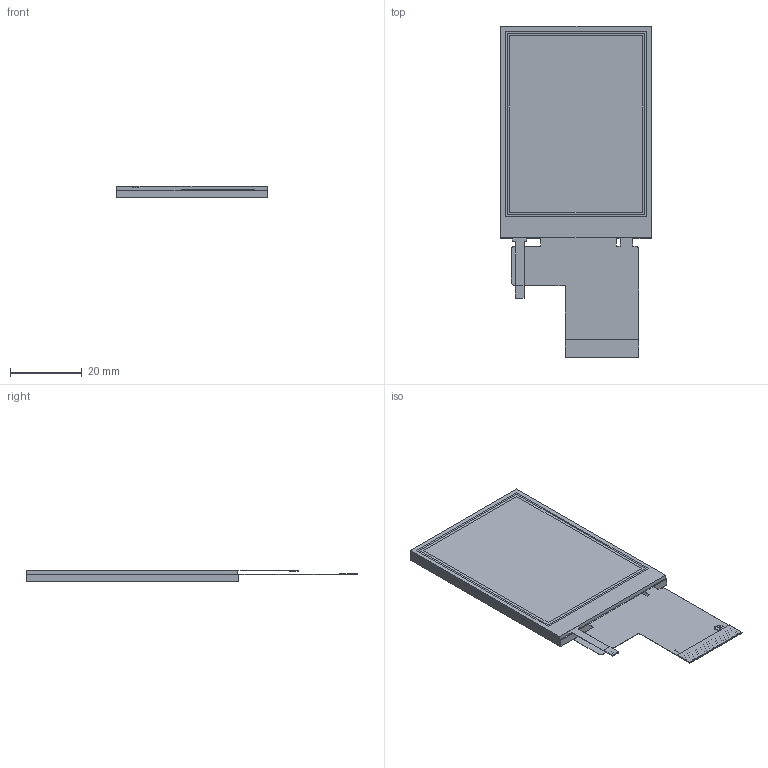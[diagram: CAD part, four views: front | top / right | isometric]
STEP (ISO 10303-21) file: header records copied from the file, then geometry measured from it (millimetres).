
FILE_DESCRIPTION (( 'STEP AP214' ), '1' );
FILE_NAME ('CFAF240320A0-024SR.STEP', '2023-06-06T21:04:22', ( '' ), ( '' ), 'SwSTEP 2.0', 'SolidWorks 2021', '' );
FILE_SCHEMA (( 'AUTOMOTIVE_DESIGN' ));
Length unit declared in the file: millimetre
Products named in the file (1): CFAF240320A0-024SR
Bounding box: 42 x 92.05 x 3.3 mm (x, y, z)
Volume: 8134.2 mm3; surface area: 7747 mm2
Topology: 47 solids, 47 shells, 351 faces, 765 edges, 514 vertices
Faces by surface type: plane 335, bspline 9, cylinder 7
Entity records: 13927 total; most frequent: CARTESIAN_POINT 2416, ORIENTED_EDGE 1530, DIRECTION 1447, EDGE_CURVE 765, VECTOR 733, LINE 733, VERTEX_POINT 514, EDGE_LOOP 359
